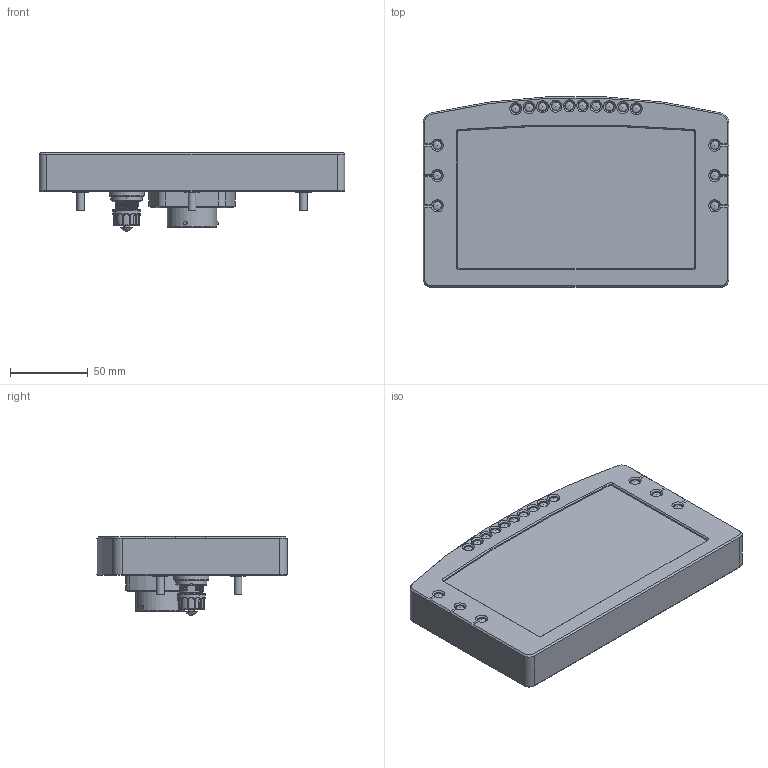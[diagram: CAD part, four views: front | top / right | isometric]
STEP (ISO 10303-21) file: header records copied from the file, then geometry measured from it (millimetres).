
FILE_DESCRIPTION(/* description */ ('Alibre Inc.'),/* implementation_level */ '2;1');
FILE_NAME(/* name */ 'export0',/* time_stamp */ '2015-12-16T16:13:08+11:00',/* author */ (''),/* organization */ (''),/* preprocessor_version */ 'ST-DEVELOPER v14',/* originating_system */ 'Alibre',/* authorisation */ '');
FILE_SCHEMA (('AUTOMOTIVE_DESIGN'));
Length unit declared in the file: centimetre
Bounding box: 196.2 x 122.07 x 50.5 mm (x, y, z)
Volume: 568527.9 mm3; surface area: 86859 mm2
Topology: 44 solids, 44 shells, 2118 faces, 7779 edges, 5834 vertices
Faces by surface type: plane 1118, cylinder 616, bspline 149, cone 144, torus 36, sphere 32, revolution 23
Full cylindrical faces by diameter (mm): 0.8 x79, 2 x3, 3.2 x2, 4.2 x16, 5 x3, 5.85 x16, 10 x3, 22.5 x1, 31.75 x1
Entity records: 108651 total; most frequent: CARTESIAN_POINT 49708, ORIENTED_EDGE 13404, DIRECTION 11371, EDGE_CURVE 6702, VERTEX_POINT 5255, AXIS2_PLACEMENT_3D 4820, CIRCLE 3191, VECTOR 2651
